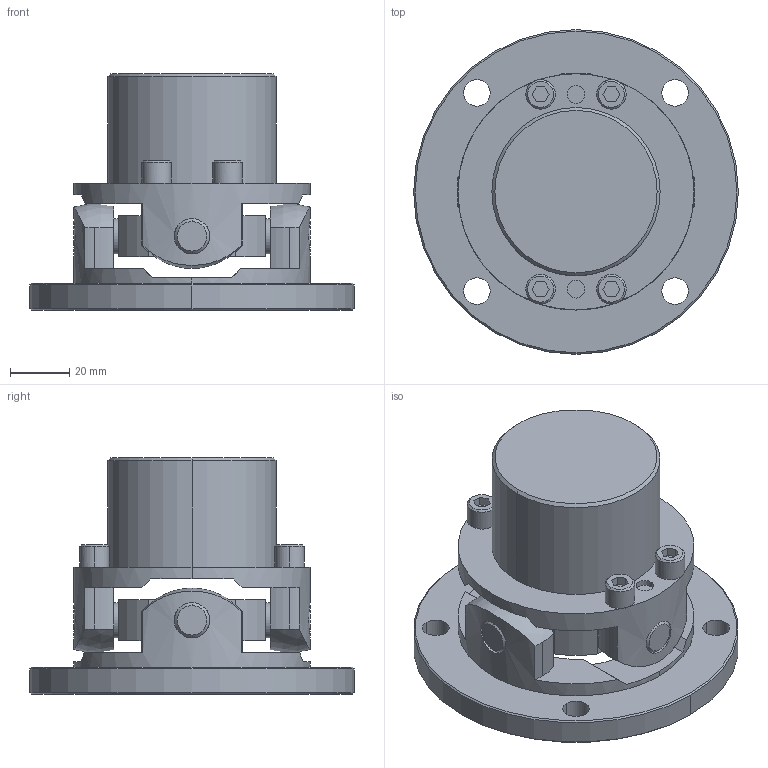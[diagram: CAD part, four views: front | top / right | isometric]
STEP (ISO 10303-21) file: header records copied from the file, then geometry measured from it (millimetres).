
FILE_DESCRIPTION((''),'2;1');
FILE_NAME('UCRF-80.stp','2013-05-13T09:27:50',(''),(''),'AutoCAD STEP 2000i','AutoCAD 2000i',', , ');
FILE_SCHEMA(('CONFIG_CONTROL_DESIGN'));
Length unit declared in the file: millimetre
Products named in the file (7): UCRF-80; 忣兜1; UCR-8002; UCNF-8002; UCN80-B015-1; UCN80-B015; UCN80-SEN
Assembly tree (6 placements, depth 2):
  UCRF-80
    忣兜1
    UCR-8002
    UCNF-8002
    UCN80-B015-1
    UCN80-B015
    UCN80-SEN
Bounding box: 110 x 110 x 80 mm (x, y, z)
Volume: 247532.5 mm3; surface area: 56064.5 mm2
Topology: 1 solids, 1 shells, 239 faces, 601 edges, 400 vertices
Faces by surface type: plane 111, cylinder 90, cone 34, sphere 4
Entity records: 7804 total; most frequent: CARTESIAN_POINT 1644, DIRECTION 1349, ORIENTED_EDGE 1188, EDGE_CURVE 594, AXIS2_PLACEMENT_3D 518, VERTEX_POINT 386, VECTOR 313, LINE 313
